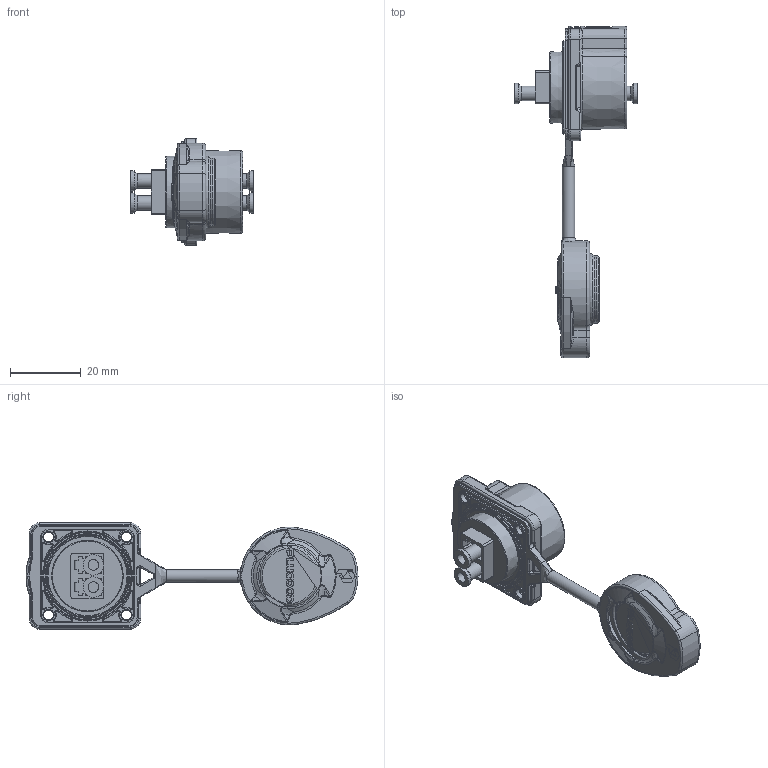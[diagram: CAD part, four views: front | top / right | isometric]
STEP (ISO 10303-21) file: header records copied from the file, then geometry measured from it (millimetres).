
FILE_DESCRIPTION (( 'STEP AP203' ), '1' );
FILE_NAME ('PLG20 单模双纤四孔插座.STEP', '2025-03-20T11:26:32', ( '' ), ( '' ), 'SwSTEP 2.0', 'SolidWorks 2024', '' );
FILE_SCHEMA (( 'CONFIG_CONTROL_DESIGN' ));
Length unit declared in the file: millimetre
Products named in the file (1): PLG20 单模双纤四孔插座
Bounding box: 34.6 x 93.64 x 30 mm (x, y, z)
Volume: 12933.2 mm3; surface area: 12918 mm2
Topology: 1 solids, 18 shells, 1343 faces, 3360 edges, 2089 vertices
Faces by surface type: plane 499, cylinder 339, bspline 249, torus 185, cone 61, sphere 10
Full cylindrical faces by diameter (mm): 0.569 x1, 1.061 x1, 1.119 x1, 1.27 x2, 2.088 x1, 2.8 x4, 2.921 x2, 3 x8, 3.3 x4, 3.5 x1, 4.1 x4, 5.8 x4, 6 x4, 16.3 x1, 16.5 x1, 19.1 x1, 19.5 x3, 22.3 x1, 23.5 x1, 25 x1
Entity records: 45421 total; most frequent: CARTESIAN_POINT 15780, ORIENTED_EDGE 6432, DIRECTION 5591, EDGE_CURVE 3216, AXIS2_PLACEMENT_3D 2075, VERTEX_POINT 2054, EDGE_LOOP 1524, VECTOR 1441
